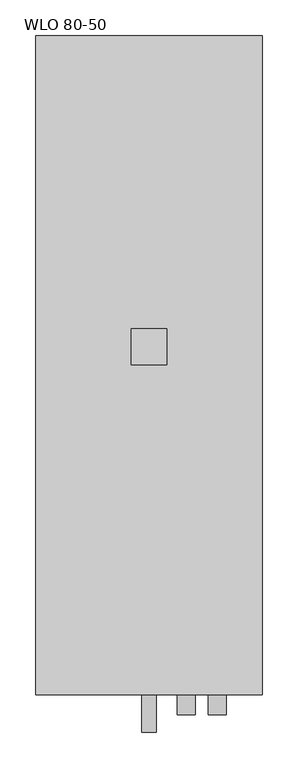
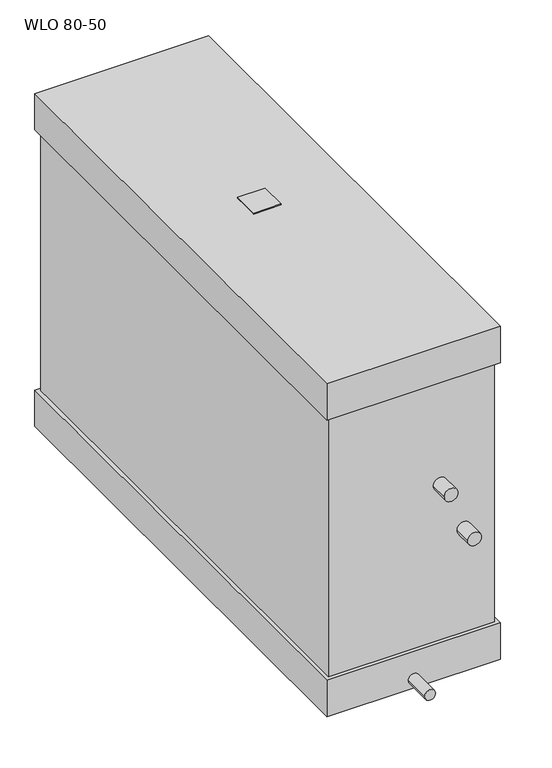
"""IFC4 building model written with IfcOpenShell, lengths in millimetres: proxy geometry, KORF_Воздухоохладитель_Водяной_WLO_Левый : WLO 80-50."""

from ifc_helpers import new_model, si_unit, point, frame, frame_2d, origin, place, context, project, spatial, polyline, circle_curve, trimmed, segment, composite_curve, outline, extrude, faceted_brep, source, transform, mapped, element, save


def wlo_80_50_4877637b(model_context):
    return source(origin(), model_context, "Body", "SolidModel", [
        extrude(outline(polyline([(133.0, -25.0), (133.0, 25.0), (183.0, 25.0), (183.0, -25.0), (133.0, -25.0)])), frame((0.0, 0.0, 320.0), z_axis=(0.0, 0.0, 1.0), x_axis=(1.0, 0.0, 0.0)), (0.0, 0.0, 1.0), 2.0),
        faceted_brep([(316.0, -486.0, 320.0), (316.0, -486.0, 250.0), (316.0, 434.0, 250.0), (316.0, 434.0, 320.0), (316.0, -486.0, -250.0), (316.0, -486.0, -320.0), (316.0, 434.0, -320.0), (316.0, 434.0, -250.0), (0.0, -486.0, 320.0), (0.0, 434.0, 320.0), (0.0, 434.0, 250.0), (0.0, -486.0, 250.0), (0.0, -486.0, -250.0), (0.0, 434.0, -250.0), (0.0, 434.0, -320.0), (0.0, -486.0, -320.0), (7.0, -479.0, 250.0), (309.0, -479.0, 250.0), (309.0, -400.0, 250.0), (309.0, 400.0, 250.0), (309.0, 427.0, 250.0), (7.0, 427.0, 250.0), (7.0, 400.0, 250.0), (7.0, -400.0, 250.0), (309.0, -479.0, -250.0), (7.0, -479.0, -250.0), (7.0, -400.0, -250.0), (7.0, 400.0, -250.0), (7.0, 427.0, -250.0), (309.0, 427.0, -250.0), (309.0, 400.0, -250.0), (309.0, -400.0, -250.0)], [[[0, 1, 2, 3]], [[4, 5, 6, 7]], [[8, 9, 10, 11]], [[12, 13, 14, 15]], [[1, 0, 8, 11]], [[2, 1, 11, 10], [16, 17, 18, 19, 20, 21, 22, 23]], [[3, 2, 10, 9]], [[0, 3, 9, 8]], [[5, 4, 12, 15]], [[6, 5, 15, 14]], [[7, 6, 14, 13]], [[4, 7, 13, 12], [24, 25, 26, 27, 28, 29, 30, 31]], [[17, 24, 31, 30, 29, 20, 19, 18]], [[21, 28, 27, 26, 25, 16, 23, 22]], [[24, 17, 16, 25]], [[20, 29, 28, 21]]]),
        extrude(outline(composite_curve([segment(trimmed(circle_curve(frame_2d((50.0, 210.0)), 12.5), [point((50.0, 197.5))], [point((50.0, 222.5))], False, "CARTESIAN"), True, "CONTINUOUS"), segment(trimmed(circle_curve(frame_2d((50.0, 210.0)), 12.5), [point((50.0, 222.5))], [point((50.0, 197.5))], False, "CARTESIAN"), True, "CONTINUOUS")], self_intersect=False)), frame((0.0, -514.0, 0.0), z_axis=(0.0, 1.0, 0.0), x_axis=(0.0, 0.0, 1.0)), (0.0, 0.0, 1.0), 35.0),
        extrude(outline(composite_curve([segment(trimmed(circle_curve(frame_2d((-50.0, 253.0)), 12.5), [point((-50.0, 240.5))], [point((-50.0, 265.5))], False, "CARTESIAN"), True, "CONTINUOUS"), segment(trimmed(circle_curve(frame_2d((-50.0, 253.0)), 12.5), [point((-50.0, 265.5))], [point((-50.0, 240.5))], False, "CARTESIAN"), True, "CONTINUOUS")], self_intersect=False)), frame((0.0, -514.0, 0.0), z_axis=(0.0, 1.0, 0.0), x_axis=(0.0, 0.0, 1.0)), (0.0, 0.0, 1.0), 35.0),
        extrude(outline(composite_curve([segment(trimmed(circle_curve(frame_2d((-302.0, 158.0)), 10.0), [point((-302.0, 148.0))], [point((-302.0, 168.0))], False, "CARTESIAN"), True, "CONTINUOUS"), segment(trimmed(circle_curve(frame_2d((-302.0, 158.0)), 10.0), [point((-302.0, 168.0))], [point((-302.0, 148.0))], False, "CARTESIAN"), True, "CONTINUOUS")], self_intersect=False)), frame((0.0, -538.0, 0.0), z_axis=(0.0, 1.0, 0.0), x_axis=(0.0, 0.0, 1.0)), (0.0, 0.0, 1.0), 52.0),
    ])


if __name__ == "__main__":
    model = new_model("IFC4")
    model_context = context("Model", 3, world=origin())
    ifc_project = project(units=[si_unit("LENGTHUNIT", "METRE", prefix="MILLI")], contexts=[model_context])
    site = spatial("IfcSite", under=ifc_project)
    building = spatial("IfcBuilding", under=site)
    placement = place(None, origin())
    wlo_80_50_shape = wlo_80_50_4877637b(model_context)
    element("IfcBuildingElementProxy", 1, Name="KORF_Воздухоохладитель_Водяной_WLO_Левый : WLO 80-50", ObjectType="KORF_Воздухоохладитель_Водяной_WLO_Левый : WLO 80-50", at=placement, inside=building, context=model_context, shape_type="MappedRepresentation", body=[
        mapped(wlo_80_50_shape, transform((0.0, 0.0, 0.0), x_axis=(1.0, 0.0, 0.0), y_axis=(0.0, 1.0, 0.0), z_axis=(0.0, 0.0, 1.0))),
    ])
    save(model, "model.ifc")
